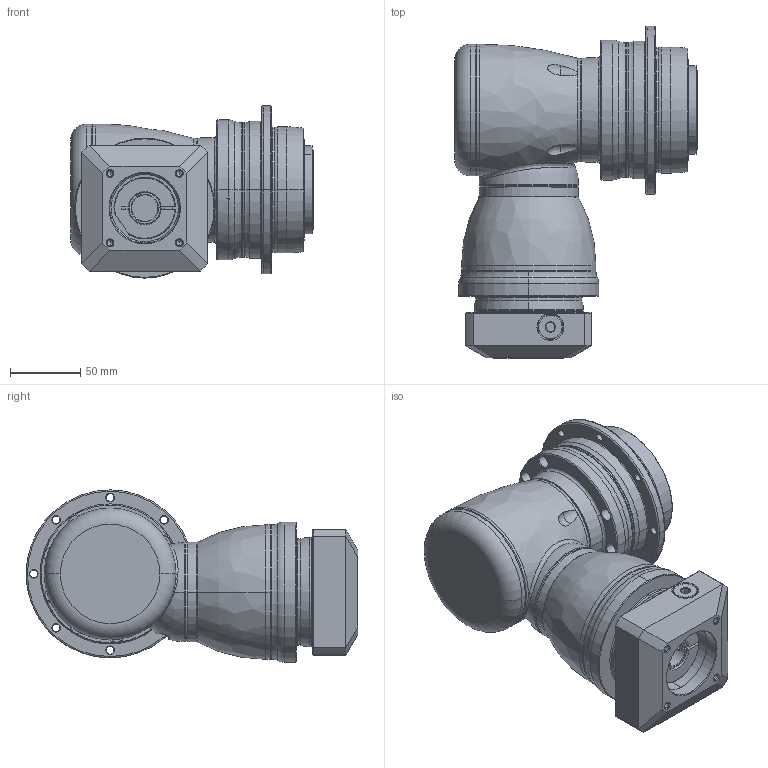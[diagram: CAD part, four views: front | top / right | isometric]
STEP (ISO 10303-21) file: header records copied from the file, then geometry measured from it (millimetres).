
FILE_DESCRIPTION((''),'2;1');
FILE_NAME('AHK090_2ST_19-P0409400101_ASM','2016-09-21T',('d01943'),(''),'PRO/ENGINEER BY PARAMETRIC TECHNOLOGY CORPORATION, 2008410','PRO/ENGINEER BY PARAMETRIC TECHNOLOGY CORPORATION, 2008410','');
FILE_SCHEMA(('CONFIG_CONTROL_DESIGN'));
Length unit declared in the file: millimetre
Products named in the file (12): P1008300002; P1802300011; P0278300003; P0359300003; P1315300001; P1007300001; P1318300201; P0503400006; P0912302201; P0409400101; 21711412017; AHK090_2ST_19-P0409400101_ASM
Assembly tree (11 placements, depth 2):
  AHK090_2ST_19-P0409400101_ASM
    P1008300002
    P1802300011
    P0278300003
    P0359300003
    P1315300001
    P1007300001
    P1318300201
    P0503400006
    P0912302201
    P0409400101
    21711412017
Bounding box: 173.5 x 237 x 123 mm (x, y, z)
Volume: 1434356.6 mm3; surface area: 271541.1 mm2
Topology: 12 solids, 12 shells, 923 faces, 2117 edges, 1240 vertices
Faces by surface type: cylinder 316, cone 268, plane 141, torus 132, bspline 64, sphere 2
Entity records: 34645 total; most frequent: CARTESIAN_POINT 13707, DIRECTION 4704, ORIENTED_EDGE 4086, EDGE_CURVE 2043, AXIS2_PLACEMENT_3D 2028, VERTEX_POINT 1234, CIRCLE 1146, EDGE_LOOP 1063
